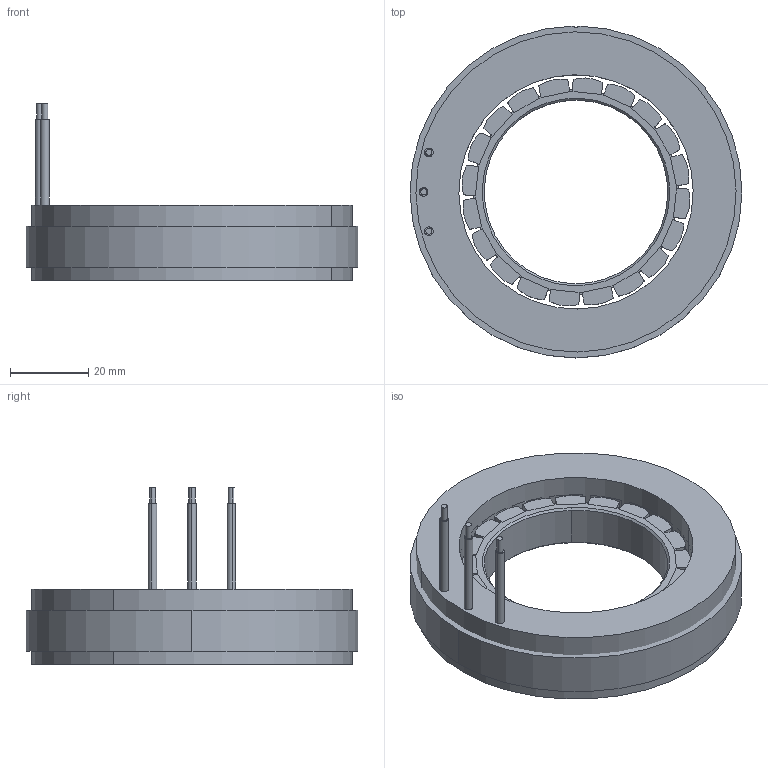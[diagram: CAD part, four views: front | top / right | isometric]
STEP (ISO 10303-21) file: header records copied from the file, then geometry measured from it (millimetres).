
FILE_DESCRIPTION (( 'STEP AP214' ), '1' );
FILE_NAME ('8519µç»ú - ÐÂ.STEP', '2025-02-17T08:29:31', ( '' ), ( '' ), 'SwSTEP 2.0', 'SolidWorks 2023', '' );
FILE_SCHEMA (( 'AUTOMOTIVE_DESIGN' ));
Length unit declared in the file: millimetre
Products named in the file (10): 8519磁铁; 8508转子; 8508胶; 8508线圈; 8508定子; 8508铁心涂覆; AWG16电缆 - 1; 8519轴; AWG16线白; 8519电机 - 新
Assembly tree (47 placements, depth 3):
  8519电机 - 新
    8508定子
      8508铁心涂覆
      8508线圈  x18
      8508胶
    8508转子
      8519轴
      8519磁铁  x20
    AWG16电缆 - 1  x3
      AWG16线白
Bounding box: 85 x 85 x 45.3 mm (x, y, z)
Volume: 89435.8 mm3; surface area: 52473.6 mm2
Topology: 44 solids, 44 shells, 759 faces, 1991 edges, 1326 vertices
Faces by surface type: plane 466, cylinder 289, cone 4
Entity records: 9709 total; most frequent: CARTESIAN_POINT 1661, DIRECTION 1637, ORIENTED_EDGE 1594, EDGE_CURVE 797, LINE 625, VECTOR 625, VERTEX_POINT 530, AXIS2_PLACEMENT_3D 506
